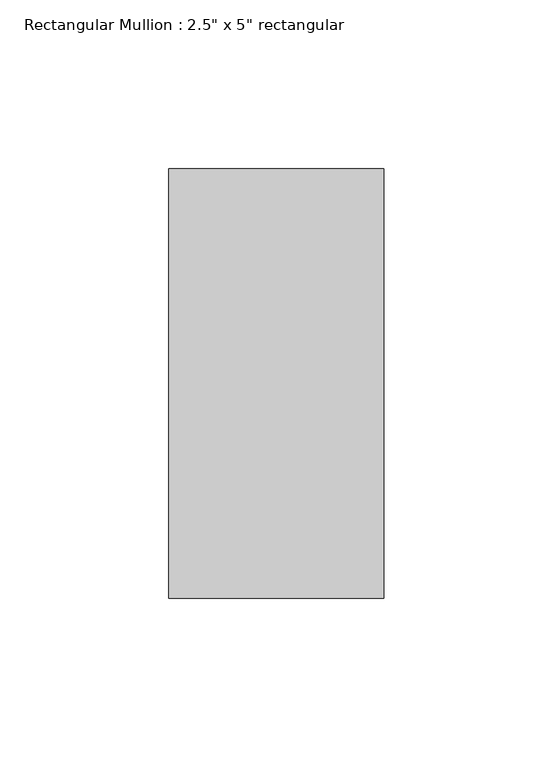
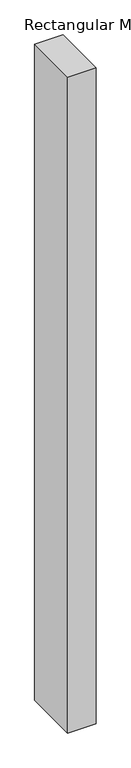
"""IFC4 building model written with IfcOpenShell, lengths in millimetres: member geometry."""

from ifc_helpers import new_model, si_unit, frame, origin, place, context, project, spatial, polyline, outline, extrude, source, transform, mapped, element, save


def member_7ffb4a7b(model_context):
    return source(origin(), model_context, "Body", "SweptSolid", [
        extrude(outline(polyline([(0.0, 63.5), (0.0, -63.5), (-63.5, -63.5), (-63.5, 63.5), (0.0, 63.5)])), frame((0.0, 0.0, -1543.05), z_axis=(0.0, 0.0, 1.0), x_axis=(1.0, 0.0, 0.0)), (0.0, 0.0, 1.0), 1543.05),
    ])


if __name__ == "__main__":
    model = new_model("IFC4")
    model_context = context("Model", 3, world=origin())
    ifc_project = project(units=[si_unit("LENGTHUNIT", "METRE", prefix="MILLI")], contexts=[model_context])
    site = spatial("IfcSite", under=ifc_project)
    building = spatial("IfcBuilding", under=site)
    placement = place(None, origin())
    member_shape = member_7ffb4a7b(model_context)
    element("IfcMember", 1, ObjectType="Rectangular Mullion : 2.5\" x 5\" rectangular", at=placement, inside=building, context=model_context, shape_type="MappedRepresentation", body=[
        mapped(member_shape, transform((0.0, 0.0, 0.0), x_axis=(1.0, 0.0, 0.0), y_axis=(0.0, 1.0, 0.0), z_axis=(0.0, 0.0, 1.0))),
    ])
    save(model, "model.ifc")
